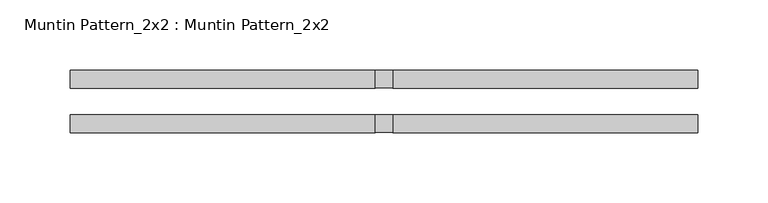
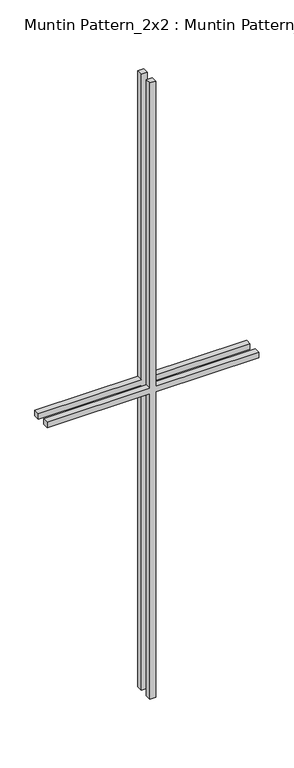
"""IFC4 building model written with IfcOpenShell, lengths in millimetres: proxy geometry, Muntin Pattern_2x2 : Muntin Pattern_2x2."""

from ifc_helpers import new_model, si_unit, frame, origin, place, context, project, spatial, polyline, outline, extrude, source, transform, mapped, element, save


def muntin_pattern_2x2_muntin_pattern_2x2_b14f4b9c(model_context):
    return source(origin(), model_context, "Body", "SweptSolid", [
        extrude(outline(polyline([(695.325, -6.35), (695.325, -223.8375), (682.625, -223.8375), (682.625, -6.35), (0.0, -6.35), (0.0, 6.35), (682.625, 6.35), (682.625, 223.8375), (695.325, 223.8375), (695.325, 6.35), (1377.95, 6.35), (1377.95, -6.35), (695.325, -6.35)])), frame((0.0, 9.525, 0.0), z_axis=(0.0, 1.0, 0.0), x_axis=(0.0, 0.0, 1.0)), (0.0, 0.0, 1.0), 12.7),
        extrude(outline(polyline([(695.325, -6.35), (695.325, -223.8375), (682.625, -223.8375), (682.625, -6.35), (0.0, -6.35), (0.0, 6.35), (682.625, 6.35), (682.625, 223.8375), (695.325, 223.8375), (695.325, 6.35), (1377.95, 6.35), (1377.95, -6.35), (695.325, -6.35)])), frame((0.0, -22.225, 0.0), z_axis=(0.0, 1.0, 0.0), x_axis=(0.0, 0.0, 1.0)), (0.0, 0.0, 1.0), 12.7),
    ])


if __name__ == "__main__":
    model = new_model("IFC4")
    model_context = context("Model", 3, world=origin())
    ifc_project = project(units=[si_unit("LENGTHUNIT", "METRE", prefix="MILLI")], contexts=[model_context])
    site = spatial("IfcSite", under=ifc_project)
    building = spatial("IfcBuilding", under=site)
    placement = place(None, origin())
    muntin_pattern_2x2_muntin_pattern_2x2_shape = muntin_pattern_2x2_muntin_pattern_2x2_b14f4b9c(model_context)
    element("IfcBuildingElementProxy", 1, Name="Muntin Pattern_2x2 : Muntin Pattern_2x2", ObjectType="Muntin Pattern_2x2 : Muntin Pattern_2x2", at=placement, inside=building, context=model_context, shape_type="MappedRepresentation", body=[
        mapped(muntin_pattern_2x2_muntin_pattern_2x2_shape, transform((0.0, 0.0, 0.0), x_axis=(1.0, 0.0, 0.0), y_axis=(0.0, 1.0, 0.0), z_axis=(0.0, 0.0, 1.0))),
    ])
    save(model, "model.ifc")
